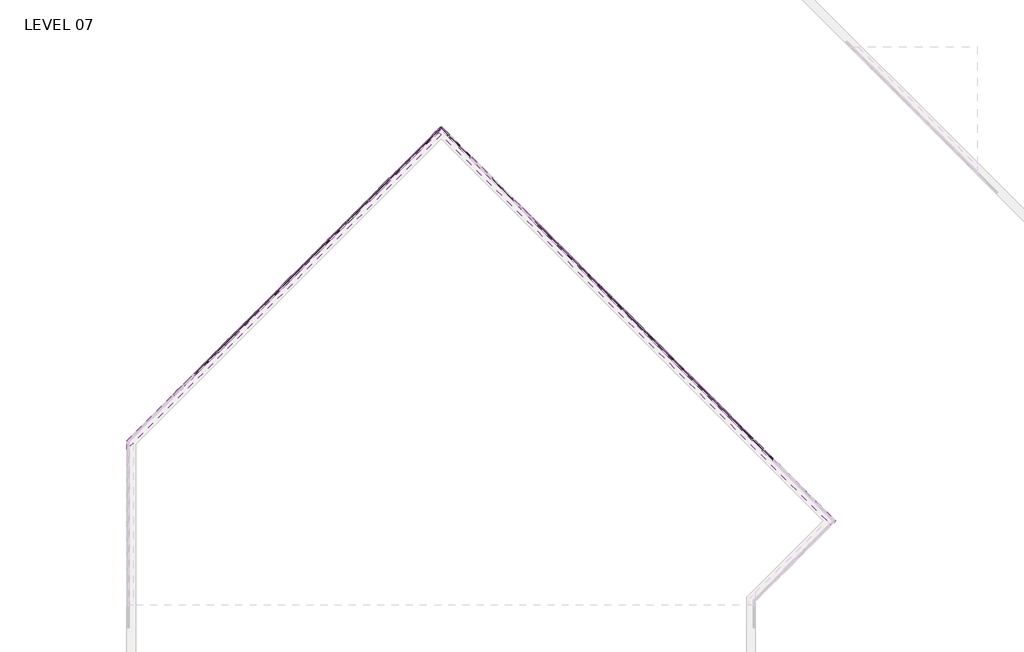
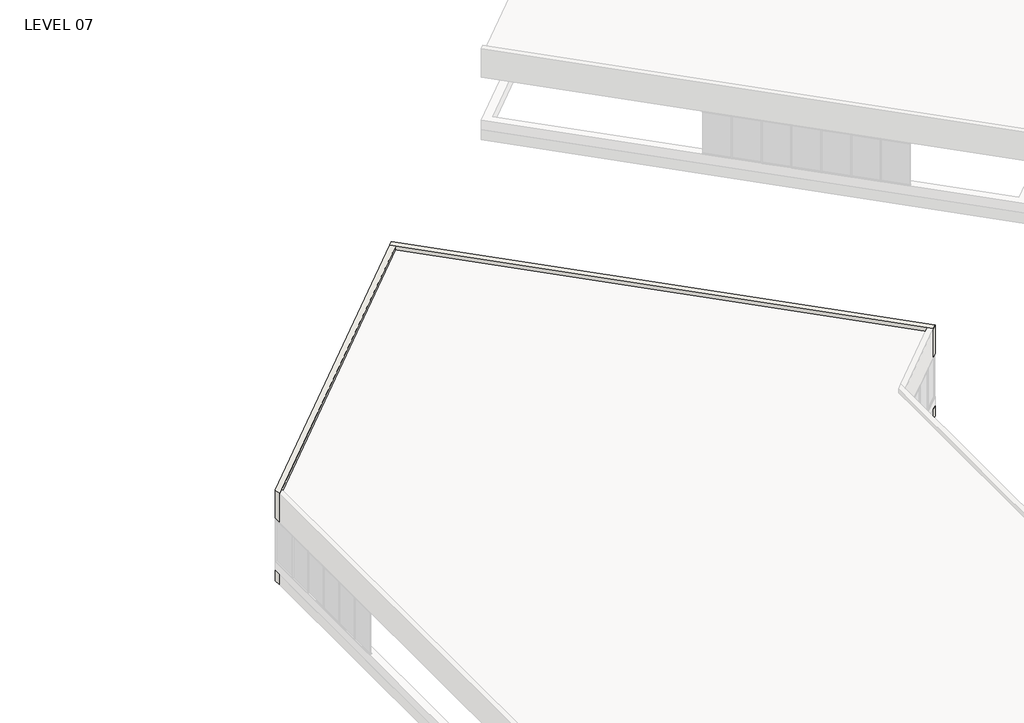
# One storey, part 6 of 18: 77 members, 25 plates, 4 walls.
"""IFC4 building model written with IfcOpenShell, lengths in millimetres."""

from ifc_helpers import new_model, si_unit, origin, place, context, project, spatial, faceted_brep, transform, mapped, element, save
from components import member_5247f267, member_e44af9ab, member_800970d4, member_25b26a38, member_ac5115e9, member_910c08c9, plate_67294edd, plate_6d527a83, plate_88df3e37, plate_c01932d8

model = new_model("IFC4")

# Units and contexts
model_context = context("Model", 3, world=origin())
ifc_project = project(units=[si_unit("LENGTHUNIT", "METRE", prefix="MILLI")], contexts=[model_context])

# Site, building, storey
site = spatial("IfcSite", under=ifc_project)
building = spatial("IfcBuilding", under=site)
storey = spatial("IfcBuildingStorey", under=building, Name="LEVEL 07", Elevation=23368.0)

# Members
placement = place(None, origin())
member_shape = member_5247f267(model_context)
element("IfcMember", 1, ObjectType="Rectangular Mullion : 2\" x 4.5\" rectangular", at=placement, inside=storey, context=model_context, shape_type="MappedRepresentation", body=[
    mapped(member_shape, transform((-29452.1097655, 80065.598675, 25958.8), x_axis=(0.0, 0.0, 1.0), y_axis=(0.7071067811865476, -0.7071067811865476, 0.0), z_axis=(0.7071067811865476, 0.7071067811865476, 0.0))),
])
element("IfcMember", 2, ObjectType="Rectangular Mullion : 2\" x 4.5\" rectangular", at=placement, inside=storey, context=model_context, shape_type="MappedRepresentation", body=[
    mapped(member_shape, transform((-28374.479031, 81143.2294096, 25958.8), x_axis=(0.0, 0.0, 1.0), y_axis=(0.7071067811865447, -0.7071067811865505, 0.0), z_axis=(0.7071067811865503, 0.7071067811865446, 0.0))),
])
element("IfcMember", 3, ObjectType="Rectangular Mullion : 2\" x 4.5\" rectangular", at=placement, inside=storey, context=model_context, shape_type="MappedRepresentation", body=[
    mapped(member_shape, transform((-26219.2175619, 83298.4908786, 25958.8), x_axis=(0.0, 0.0, 1.0), y_axis=(0.707106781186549, -0.7071067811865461, 0.0), z_axis=(0.7071067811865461, 0.707106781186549, 0.0))),
])
element("IfcMember", 4, ObjectType="Rectangular Mullion : 2\" x 4.5\" rectangular", at=placement, inside=storey, context=model_context, shape_type="MappedRepresentation", body=[
    mapped(member_shape, transform((-25141.5868274, 84376.1216131, 25958.8), x_axis=(0.0, 0.0, 1.0), y_axis=(0.7071067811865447, -0.7071067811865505, 0.0), z_axis=(0.7071067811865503, 0.7071067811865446, 0.0))),
])
element("IfcMember", 5, ObjectType="Rectangular Mullion : 2\" x 4.5\" rectangular", at=placement, inside=storey, context=model_context, shape_type="MappedRepresentation", body=[
    mapped(member_shape, transform((-24063.9560929, 85453.7523477, 25958.8), x_axis=(0.0, 0.0, 1.0), y_axis=(0.707106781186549, -0.7071067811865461, 0.0), z_axis=(0.7071067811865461, 0.707106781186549, 0.0))),
])
element("IfcMember", 6, ObjectType="Rectangular Mullion : 2\" x 4.5\" rectangular", at=placement, inside=storey, context=model_context, shape_type="MappedRepresentation", body=[
    mapped(member_shape, transform((-18675.8024202, 90841.9060203, 25958.8), x_axis=(0.0, 0.0, 1.0), y_axis=(0.707106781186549, -0.7071067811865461, 0.0), z_axis=(0.7071067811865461, 0.707106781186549, 0.0))),
])
element("IfcMember", 7, ObjectType="Rectangular Mullion : 2\" x 4.5\" rectangular", at=placement, inside=storey, context=model_context, shape_type="MappedRepresentation", body=[
    mapped(member_shape, transform((-27296.8482965, 82220.8601441, 25958.8), x_axis=(0.0, 0.0, 1.0), y_axis=(0.7071067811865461, -0.707106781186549, 0.0), z_axis=(0.707106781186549, 0.7071067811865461, 0.0))),
])
element("IfcMember", 8, ObjectType="Rectangular Mullion : 2\" x 4.5\" rectangular", at=placement, inside=storey, context=model_context, shape_type="MappedRepresentation", body=[
    mapped(member_shape, transform((-21908.6946238, 87609.0138167, 25958.8), x_axis=(0.0, 0.0, 1.0), y_axis=(0.707106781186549, -0.7071067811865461, 0.0), z_axis=(0.7071067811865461, 0.707106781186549, 0.0))),
])
element("IfcMember", 9, ObjectType="Rectangular Mullion : 2\" x 4.5\" rectangular", at=placement, inside=storey, context=model_context, shape_type="MappedRepresentation", body=[
    mapped(member_shape, transform((-22986.3253583, 86531.3830822, 25958.8), x_axis=(0.0, 0.0, 1.0), y_axis=(0.7071067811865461, -0.707106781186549, 0.0), z_axis=(0.707106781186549, 0.7071067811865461, 0.0))),
])
element("IfcMember", 10, ObjectType="Rectangular Mullion : 2\" x 4.5\" rectangular", at=placement, inside=storey, context=model_context, shape_type="MappedRepresentation", body=[
    mapped(member_shape, transform((-20831.0638893, 88686.6445513, 25958.8), x_axis=(0.0, 0.0, 1.0), y_axis=(0.7071067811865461, -0.707106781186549, 0.0), z_axis=(0.707106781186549, 0.7071067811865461, 0.0))),
])
element("IfcMember", 11, ObjectType="Rectangular Mullion : 2\" x 4.5\" rectangular", at=placement, inside=storey, context=model_context, shape_type="MappedRepresentation", body=[
    mapped(member_shape, transform((-19753.4331548, 89764.2752858, 25958.8), x_axis=(0.0, 0.0, 1.0), y_axis=(0.7071067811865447, -0.7071067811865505, 0.0), z_axis=(0.7071067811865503, 0.7071067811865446, 0.0))),
])
element("IfcMember", 12, ObjectType="Rectangular Mullion : 2\" x 4.5\" rectangular", at=placement, inside=storey, context=model_context, shape_type="MappedRepresentation", body=[
    mapped(member_shape, transform((-17598.1716857, 91919.5367548, 25958.8), x_axis=(0.0, 0.0, 1.0), y_axis=(0.7071067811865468, -0.7071067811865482, 0.0), z_axis=(0.7071067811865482, 0.7071067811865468, 0.0))),
])
element("IfcMember", 13, ObjectType="Rectangular Mullion : 2\" x 4.5\" rectangular", at=placement, inside=storey, context=model_context, shape_type="MappedRepresentation", body=[
    mapped(member_shape, transform((-14678.2286299, 89800.0176376, 25958.8), x_axis=(0.0, 0.0, 1.0), y_axis=(-0.7071067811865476, -0.7071067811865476, 0.0), z_axis=(0.7071067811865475, -0.7071067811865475, 0.0))),
])
element("IfcMember", 14, ObjectType="Rectangular Mullion : 2\" x 4.5\" rectangular", at=placement, inside=storey, context=model_context, shape_type="MappedRepresentation", body=[
    mapped(member_shape, transform((-11445.3364263, 86567.125434, 25958.8), x_axis=(0.0, 0.0, 1.0), y_axis=(-0.7071067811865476, -0.7071067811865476, 0.0), z_axis=(0.7071067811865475, -0.7071067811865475, 0.0))),
])
element("IfcMember", 15, ObjectType="Rectangular Mullion : 2\" x 4.5\" rectangular", at=placement, inside=storey, context=model_context, shape_type="MappedRepresentation", body=[
    mapped(member_shape, transform((-10367.7056918, 85489.4946995, 25958.8), x_axis=(0.0, 0.0, 1.0), y_axis=(-0.7071067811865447, -0.7071067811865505, 0.0), z_axis=(0.7071067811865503, -0.7071067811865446, 0.0))),
])
element("IfcMember", 16, ObjectType="Rectangular Mullion : 2\" x 4.5\" rectangular", at=placement, inside=storey, context=model_context, shape_type="MappedRepresentation", body=[
    mapped(member_shape, transform((-9290.0749572, 84411.863965, 25958.8), x_axis=(0.0, 0.0, 1.0), y_axis=(-0.7071067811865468, -0.7071067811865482, 0.0), z_axis=(0.7071067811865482, -0.7071067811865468, 0.0))),
])
element("IfcMember", 17, ObjectType="Rectangular Mullion : 2\" x 4.5\" rectangular", at=placement, inside=storey, context=model_context, shape_type="MappedRepresentation", body=[
    mapped(member_shape, transform((-8212.4442227, 83334.2332305, 25958.8), x_axis=(0.0, 0.0, 1.0), y_axis=(-0.7071067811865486, -0.7071067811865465, 0.0), z_axis=(0.7071067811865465, -0.7071067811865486, 0.0))),
])
element("IfcMember", 18, ObjectType="Rectangular Mullion : 2\" x 4.5\" rectangular", at=placement, inside=storey, context=model_context, shape_type="MappedRepresentation", body=[
    mapped(member_shape, transform((-4979.9093644, 80101.6983722, 25958.8), x_axis=(0.0, 0.0, 1.0), y_axis=(-0.7071067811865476, -0.7071067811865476, 0.0), z_axis=(0.7071067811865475, -0.7071067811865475, 0.0))),
])
element("IfcMember", 19, ObjectType="Rectangular Mullion : 2\" x 4.5\" rectangular", at=placement, inside=storey, context=model_context, shape_type="MappedRepresentation", body=[
    mapped(member_shape, transform((-3902.2786299, 79024.0676376, 25958.8), x_axis=(0.0, 0.0, 1.0), y_axis=(-0.7071067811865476, -0.7071067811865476, 0.0), z_axis=(0.7071067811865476, -0.7071067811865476, 0.0))),
])
element("IfcMember", 20, ObjectType="Rectangular Mullion : 2\" x 4.5\" rectangular", at=placement, inside=storey, context=model_context, shape_type="MappedRepresentation", body=[
    mapped(member_shape, transform((-12522.9671608, 87644.7561686, 25958.8), x_axis=(0.0, 0.0, 1.0), y_axis=(-0.7071067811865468, -0.7071067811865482, 0.0), z_axis=(0.7071067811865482, -0.7071067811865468, 0.0))),
])
element("IfcMember", 21, ObjectType="Rectangular Mullion : 2\" x 4.5\" rectangular", at=placement, inside=storey, context=model_context, shape_type="MappedRepresentation", body=[
    mapped(member_shape, transform((-2824.6478954, 77946.4369031, 25958.8), x_axis=(0.0, 0.0, 1.0), y_axis=(-0.7071067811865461, -0.707106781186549, 0.0), z_axis=(0.707106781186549, -0.7071067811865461, 0.0))),
])
element("IfcMember", 22, ObjectType="Rectangular Mullion : 2\" x 4.5\" rectangular", at=placement, inside=storey, context=model_context, shape_type="MappedRepresentation", body=[
    mapped(member_shape, transform((-1747.0171608, 76868.8061686, 25958.8), x_axis=(0.0, 0.0, 1.0), y_axis=(-0.7071067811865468, -0.7071067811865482, 0.0), z_axis=(0.7071067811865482, -0.7071067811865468, 0.0))),
])
element("IfcMember", 23, ObjectType="Rectangular Mullion : 2\" x 4.5\" rectangular", at=placement, inside=storey, context=model_context, shape_type="MappedRepresentation", body=[
    mapped(member_shape, transform((-29416.188741, 80101.5196995, 23368.0), x_axis=(0.0, 0.0, -1.0), y_axis=(0.7071067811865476, -0.7071067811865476, 0.0), z_axis=(-0.7071067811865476, -0.7071067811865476, 0.0))),
])
element("IfcMember", 24, ObjectType="Rectangular Mullion : 2\" x 4.5\" rectangular", at=placement, inside=storey, context=model_context, shape_type="MappedRepresentation", body=[
    mapped(member_shape, transform((-28338.5580065, 81179.150434, 23368.0), x_axis=(0.0, 0.0, -1.0), y_axis=(0.7071067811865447, -0.7071067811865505, 0.0), z_axis=(-0.7071067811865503, -0.7071067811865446, 0.0))),
])
element("IfcMember", 25, ObjectType="Rectangular Mullion : 2\" x 4.5\" rectangular", at=placement, inside=storey, context=model_context, shape_type="MappedRepresentation", body=[
    mapped(member_shape, transform((-26183.2965374, 83334.4119031, 23368.0), x_axis=(0.0, 0.0, -1.0), y_axis=(0.7071067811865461, -0.707106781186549, 0.0), z_axis=(-0.707106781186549, -0.7071067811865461, 0.0))),
])
element("IfcMember", 26, ObjectType="Rectangular Mullion : 2\" x 4.5\" rectangular", at=placement, inside=storey, context=model_context, shape_type="MappedRepresentation", body=[
    mapped(member_shape, transform((-25105.6658029, 84412.0426376, 23368.0), x_axis=(0.0, 0.0, -1.0), y_axis=(0.707106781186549, -0.7071067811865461, 0.0), z_axis=(-0.7071067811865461, -0.707106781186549, 0.0))),
])
element("IfcMember", 27, ObjectType="Rectangular Mullion : 2\" x 4.5\" rectangular", at=placement, inside=storey, context=model_context, shape_type="MappedRepresentation", body=[
    mapped(member_shape, transform((-24028.0350684, 85489.6733722, 23368.0), x_axis=(0.0, 0.0, -1.0), y_axis=(0.7071067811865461, -0.707106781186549, 0.0), z_axis=(-0.707106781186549, -0.7071067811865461, 0.0))),
])
element("IfcMember", 28, ObjectType="Rectangular Mullion : 2\" x 4.5\" rectangular", at=placement, inside=storey, context=model_context, shape_type="MappedRepresentation", body=[
    mapped(member_shape, transform((-18639.8813957, 90877.8270448, 23368.0), x_axis=(0.0, 0.0, -1.0), y_axis=(0.7071067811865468, -0.7071067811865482, 0.0), z_axis=(-0.7071067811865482, -0.7071067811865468, 0.0))),
])
element("IfcMember", 29, ObjectType="Rectangular Mullion : 2\" x 4.5\" rectangular", at=placement, inside=storey, context=model_context, shape_type="MappedRepresentation", body=[
    mapped(member_shape, transform((-27260.927272, 82256.7811686, 23368.0), x_axis=(0.0, 0.0, -1.0), y_axis=(0.7071067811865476, -0.7071067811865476, 0.0), z_axis=(-0.7071067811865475, -0.7071067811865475, 0.0))),
])
element("IfcMember", 30, ObjectType="Rectangular Mullion : 2\" x 4.5\" rectangular", at=placement, inside=storey, context=model_context, shape_type="MappedRepresentation", body=[
    mapped(member_shape, transform((-21872.7735993, 87644.9348412, 23368.0), x_axis=(0.0, 0.0, -1.0), y_axis=(0.7071067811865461, -0.707106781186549, 0.0), z_axis=(-0.707106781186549, -0.7071067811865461, 0.0))),
])
element("IfcMember", 31, ObjectType="Rectangular Mullion : 2\" x 4.5\" rectangular", at=placement, inside=storey, context=model_context, shape_type="MappedRepresentation", body=[
    mapped(member_shape, transform((-22950.4043339, 86567.3041067, 23368.0), x_axis=(0.0, 0.0, -1.0), y_axis=(0.707106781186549, -0.7071067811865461, 0.0), z_axis=(-0.7071067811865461, -0.707106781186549, 0.0))),
])
element("IfcMember", 32, ObjectType="Rectangular Mullion : 2\" x 4.5\" rectangular", at=placement, inside=storey, context=model_context, shape_type="MappedRepresentation", body=[
    mapped(member_shape, transform((-20795.1428648, 88722.5655757, 23368.0), x_axis=(0.0, 0.0, -1.0), y_axis=(0.7071067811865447, -0.7071067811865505, 0.0), z_axis=(-0.7071067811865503, -0.7071067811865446, 0.0))),
])
element("IfcMember", 33, ObjectType="Rectangular Mullion : 2\" x 4.5\" rectangular", at=placement, inside=storey, context=model_context, shape_type="MappedRepresentation", body=[
    mapped(member_shape, transform((-19717.5121303, 89800.1963103, 23368.0), x_axis=(0.0, 0.0, -1.0), y_axis=(0.707106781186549, -0.7071067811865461, 0.0), z_axis=(-0.7071067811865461, -0.707106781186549, 0.0))),
])
element("IfcMember", 34, ObjectType="Rectangular Mullion : 2\" x 4.5\" rectangular", at=placement, inside=storey, context=model_context, shape_type="MappedRepresentation", body=[
    mapped(member_shape, transform((-11409.4154018, 86531.2044096, 23368.0), x_axis=(0.0, 0.0, -1.0), y_axis=(-0.7071067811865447, -0.7071067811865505, 0.0), z_axis=(-0.7071067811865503, 0.7071067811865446, 0.0))),
])
element("IfcMember", 35, ObjectType="Rectangular Mullion : 2\" x 4.5\" rectangular", at=placement, inside=storey, context=model_context, shape_type="MappedRepresentation", body=[
    mapped(member_shape, transform((-10331.7846673, 85453.573675, 23368.0), x_axis=(0.0, 0.0, -1.0), y_axis=(-0.7071067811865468, -0.7071067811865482, 0.0), z_axis=(-0.7071067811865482, 0.7071067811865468, 0.0))),
])
element("IfcMember", 36, ObjectType="Rectangular Mullion : 2\" x 4.5\" rectangular", at=placement, inside=storey, context=model_context, shape_type="MappedRepresentation", body=[
    mapped(member_shape, transform((-9254.1539328, 84375.9429405, 23368.0), x_axis=(0.0, 0.0, -1.0), y_axis=(-0.7071067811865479, -0.7071067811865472, 0.0), z_axis=(-0.7071067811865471, 0.7071067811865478, 0.0))),
])
element("IfcMember", 37, ObjectType="Rectangular Mullion : 2\" x 4.5\" rectangular", at=placement, inside=storey, context=model_context, shape_type="MappedRepresentation", body=[
    mapped(member_shape, transform((-6021.6190745, 81143.4080822, 23368.0), x_axis=(0.0, 0.0, -1.0), y_axis=(-0.7071067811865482, -0.7071067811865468, 0.0), z_axis=(-0.7071067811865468, 0.7071067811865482, 0.0))),
])
element("IfcMember", 38, ObjectType="Rectangular Mullion : 2\" x 4.5\" rectangular", at=placement, inside=storey, context=model_context, shape_type="MappedRepresentation", body=[
    mapped(member_shape, transform((-4943.9883399, 80065.7773477, 23368.0), x_axis=(0.0, 0.0, -1.0), y_axis=(-0.7071067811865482, -0.7071067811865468, 0.0), z_axis=(-0.7071067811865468, 0.7071067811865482, 0.0))),
])
element("IfcMember", 39, ObjectType="Rectangular Mullion : 2\" x 4.5\" rectangular", at=placement, inside=storey, context=model_context, shape_type="MappedRepresentation", body=[
    mapped(member_shape, transform((-3866.3576054, 78988.1466131, 23368.0), x_axis=(0.0, 0.0, -1.0), y_axis=(-0.7071067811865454, -0.7071067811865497, 0.0), z_axis=(-0.7071067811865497, 0.7071067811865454, 0.0))),
])
element("IfcMember", 40, ObjectType="Rectangular Mullion : 2\" x 4.5\" rectangular", at=placement, inside=storey, context=model_context, shape_type="MappedRepresentation", body=[
    mapped(member_shape, transform((-12487.0461363, 87608.8351441, 23368.0), x_axis=(0.0, 0.0, -1.0), y_axis=(-0.7071067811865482, -0.7071067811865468, 0.0), z_axis=(-0.7071067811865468, 0.7071067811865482, 0.0))),
])
element("IfcMember", 41, ObjectType="Rectangular Mullion : 2\" x 4.5\" rectangular", at=placement, inside=storey, context=model_context, shape_type="MappedRepresentation", body=[
    mapped(member_shape, transform((-16797.5690745, 91919.3580822, 23368.0), x_axis=(0.0, 0.0, -1.0), y_axis=(-0.7071067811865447, -0.7071067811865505, 0.0), z_axis=(-0.7071067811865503, 0.7071067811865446, 0.0))),
])
element("IfcMember", 42, ObjectType="Rectangular Mullion : 2\" x 4.5\" rectangular", at=placement, inside=storey, context=model_context, shape_type="MappedRepresentation", body=[
    mapped(member_shape, transform((-2788.7268709, 77910.5158786, 23368.0), x_axis=(0.0, 0.0, -1.0), y_axis=(-0.7071067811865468, -0.7071067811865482, 0.0), z_axis=(-0.7071067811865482, 0.7071067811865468, 0.0))),
])
element("IfcMember", 43, ObjectType="Rectangular Mullion : 2\" x 4.5\" rectangular", at=placement, inside=storey, context=model_context, shape_type="MappedRepresentation", body=[
    mapped(member_shape, transform((-1711.0961363, 76832.8851441, 23368.0), x_axis=(0.0, 0.0, -1.0), y_axis=(-0.7071067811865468, -0.7071067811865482, 0.0), z_axis=(-0.7071067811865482, 0.7071067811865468, 0.0))),
])
member_2_shape = member_e44af9ab(model_context)
element("IfcMember", 44, ObjectType="Rectangular Mullion : 2\" x 4.5\" rectangular", at=placement, inside=storey, context=model_context, shape_type="MappedRepresentation", body=[
    mapped(member_2_shape, transform((-29434.1492533, 80083.5591873, 23368.0), x_axis=(0.7071067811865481, 0.7071067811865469, 0.0), y_axis=(0.7071067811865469, -0.7071067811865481, 0.0), z_axis=(0.0, 0.0, -1.0))),
])
element("IfcMember", 45, ObjectType="Rectangular Mullion : 2\" x 4.5\" rectangular", at=placement, inside=storey, context=model_context, shape_type="MappedRepresentation", body=[
    mapped(member_2_shape, transform((-28356.5185187, 81161.1899218, 23368.0), x_axis=(0.7071067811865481, 0.7071067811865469, 0.0), y_axis=(0.7071067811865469, -0.7071067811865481, 0.0), z_axis=(0.0, 0.0, -1.0))),
])
element("IfcMember", 46, ObjectType="Rectangular Mullion : 2\" x 4.5\" rectangular", at=placement, inside=storey, context=model_context, shape_type="MappedRepresentation", body=[
    mapped(member_2_shape, transform((-26201.2570497, 83316.4513909, 23368.0), x_axis=(0.7071067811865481, 0.7071067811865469, 0.0), y_axis=(0.7071067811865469, -0.7071067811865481, 0.0), z_axis=(0.0, 0.0, -1.0))),
])
element("IfcMember", 47, ObjectType="Rectangular Mullion : 2\" x 4.5\" rectangular", at=placement, inside=storey, context=model_context, shape_type="MappedRepresentation", body=[
    mapped(member_2_shape, transform((-25123.6263152, 84394.0821254, 23368.0), x_axis=(0.7071067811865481, 0.7071067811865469, 0.0), y_axis=(0.7071067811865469, -0.7071067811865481, 0.0), z_axis=(0.0, 0.0, -1.0))),
])
element("IfcMember", 48, ObjectType="Rectangular Mullion : 2\" x 4.5\" rectangular", at=placement, inside=storey, context=model_context, shape_type="MappedRepresentation", body=[
    mapped(member_2_shape, transform((-24045.9955806, 85471.7128599, 23368.0), x_axis=(0.7071067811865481, 0.7071067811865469, 0.0), y_axis=(0.7071067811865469, -0.7071067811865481, 0.0), z_axis=(0.0, 0.0, -1.0))),
])
element("IfcMember", 49, ObjectType="Rectangular Mullion : 2\" x 4.5\" rectangular", at=placement, inside=storey, context=model_context, shape_type="MappedRepresentation", body=[
    mapped(member_2_shape, transform((-18657.841908, 90859.8665326, 23368.0), x_axis=(0.7071067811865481, 0.7071067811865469, 0.0), y_axis=(0.7071067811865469, -0.7071067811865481, 0.0), z_axis=(0.0, 0.0, -1.0))),
])
element("IfcMember", 50, ObjectType="Rectangular Mullion : 2\" x 4.5\" rectangular", at=placement, inside=storey, context=model_context, shape_type="MappedRepresentation", body=[
    mapped(member_2_shape, transform((-27278.8877842, 82238.8206563, 23368.0), x_axis=(0.7071067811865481, 0.7071067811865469, 0.0), y_axis=(0.7071067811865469, -0.7071067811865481, 0.0), z_axis=(0.0, 0.0, -1.0))),
])
element("IfcMember", 51, ObjectType="Rectangular Mullion : 2\" x 4.5\" rectangular", at=placement, inside=storey, context=model_context, shape_type="MappedRepresentation", body=[
    mapped(member_2_shape, transform((-21890.7341116, 87626.974329, 23368.0), x_axis=(0.7071067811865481, 0.7071067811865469, 0.0), y_axis=(0.7071067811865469, -0.7071067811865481, 0.0), z_axis=(0.0, 0.0, -1.0))),
])
element("IfcMember", 52, ObjectType="Rectangular Mullion : 2\" x 4.5\" rectangular", at=placement, inside=storey, context=model_context, shape_type="MappedRepresentation", body=[
    mapped(member_2_shape, transform((-22968.3648461, 86549.3435944, 23368.0), x_axis=(0.7071067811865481, 0.7071067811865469, 0.0), y_axis=(0.7071067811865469, -0.7071067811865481, 0.0), z_axis=(0.0, 0.0, -1.0))),
])
element("IfcMember", 53, ObjectType="Rectangular Mullion : 2\" x 4.5\" rectangular", at=placement, inside=storey, context=model_context, shape_type="MappedRepresentation", body=[
    mapped(member_2_shape, transform((-20813.103377, 88704.6050635, 23368.0), x_axis=(0.7071067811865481, 0.7071067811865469, 0.0), y_axis=(0.7071067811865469, -0.7071067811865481, 0.0), z_axis=(0.0, 0.0, -1.0))),
])
element("IfcMember", 54, ObjectType="Rectangular Mullion : 2\" x 4.5\" rectangular", at=placement, inside=storey, context=model_context, shape_type="MappedRepresentation", body=[
    mapped(member_2_shape, transform((-19735.4726425, 89782.235798, 23368.0), x_axis=(0.7071067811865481, 0.7071067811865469, 0.0), y_axis=(0.7071067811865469, -0.7071067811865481, 0.0), z_axis=(0.0, 0.0, -1.0))),
])
element("IfcMember", 55, ObjectType="Rectangular Mullion : 2\" x 4.5\" rectangular", at=placement, inside=storey, context=model_context, shape_type="MappedRepresentation", body=[
    mapped(member_2_shape, transform((-17580.2111735, 91937.4972671, 23368.0), x_axis=(0.7071067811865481, 0.7071067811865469, 0.0), y_axis=(0.7071067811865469, -0.7071067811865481, 0.0), z_axis=(0.0, 0.0, -1.0))),
])
element("IfcMember", 56, ObjectType="Rectangular Mullion : 2\" x 4.5\" rectangular", at=placement, inside=storey, context=model_context, shape_type="MappedRepresentation", body=[
    mapped(member_2_shape, transform((-11427.3759141, 86549.1649218, 23368.0), x_axis=(0.707106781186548, -0.7071067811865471, 0.0), y_axis=(-0.7071067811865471, -0.707106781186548, 0.0), z_axis=(0.0, 0.0, -1.0))),
])
element("IfcMember", 57, ObjectType="Rectangular Mullion : 2\" x 4.5\" rectangular", at=placement, inside=storey, context=model_context, shape_type="MappedRepresentation", body=[
    mapped(member_2_shape, transform((-10349.7451795, 85471.5341873, 23368.0), x_axis=(0.707106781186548, -0.7071067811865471, 0.0), y_axis=(-0.7071067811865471, -0.707106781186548, 0.0), z_axis=(0.0, 0.0, -1.0))),
])
element("IfcMember", 58, ObjectType="Rectangular Mullion : 2\" x 4.5\" rectangular", at=placement, inside=storey, context=model_context, shape_type="MappedRepresentation", body=[
    mapped(member_2_shape, transform((-9272.114445, 84393.9034527, 23368.0), x_axis=(0.707106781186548, -0.7071067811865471, 0.0), y_axis=(-0.7071067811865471, -0.707106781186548, 0.0), z_axis=(0.0, 0.0, -1.0))),
])
element("IfcMember", 59, ObjectType="Rectangular Mullion : 2\" x 4.5\" rectangular", at=placement, inside=storey, context=model_context, shape_type="MappedRepresentation", body=[
    mapped(member_2_shape, transform((-8194.4837105, 83316.2727182, 23368.0), x_axis=(0.707106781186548, -0.7071067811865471, 0.0), y_axis=(-0.7071067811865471, -0.707106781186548, 0.0), z_axis=(0.0, 0.0, -1.0))),
])
element("IfcMember", 60, ObjectType="Rectangular Mullion : 2\" x 4.5\" rectangular", at=placement, inside=storey, context=model_context, shape_type="MappedRepresentation", body=[
    mapped(member_2_shape, transform((-6039.5795867, 81161.3685944, 23368.0), x_axis=(0.707106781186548, -0.7071067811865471, 0.0), y_axis=(-0.7071067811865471, -0.707106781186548, 0.0), z_axis=(0.0, 0.0, -1.0))),
])
element("IfcMember", 61, ObjectType="Rectangular Mullion : 2\" x 4.5\" rectangular", at=placement, inside=storey, context=model_context, shape_type="MappedRepresentation", body=[
    mapped(member_2_shape, transform((-4961.9488522, 80083.7378599, 23368.0), x_axis=(0.707106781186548, -0.7071067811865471, 0.0), y_axis=(-0.7071067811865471, -0.707106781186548, 0.0), z_axis=(0.0, 0.0, -1.0))),
])
element("IfcMember", 62, ObjectType="Rectangular Mullion : 2\" x 4.5\" rectangular", at=placement, inside=storey, context=model_context, shape_type="MappedRepresentation", body=[
    mapped(member_2_shape, transform((-3884.3181176, 79006.1071254, 23368.0), x_axis=(0.707106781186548, -0.7071067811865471, 0.0), y_axis=(-0.7071067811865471, -0.707106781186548, 0.0), z_axis=(0.0, 0.0, -1.0))),
])
element("IfcMember", 63, ObjectType="Rectangular Mullion : 2\" x 4.5\" rectangular", at=placement, inside=storey, context=model_context, shape_type="MappedRepresentation", body=[
    mapped(member_2_shape, transform((-12505.0066486, 87626.7956563, 23368.0), x_axis=(0.707106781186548, -0.7071067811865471, 0.0), y_axis=(-0.7071067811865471, -0.707106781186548, 0.0), z_axis=(0.0, 0.0, -1.0))),
])
element("IfcMember", 64, ObjectType="Rectangular Mullion : 2\" x 4.5\" rectangular", at=placement, inside=storey, context=model_context, shape_type="MappedRepresentation", body=[
    mapped(member_2_shape, transform((-16815.5295867, 91937.3185944, 23368.0), x_axis=(0.707106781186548, -0.7071067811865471, 0.0), y_axis=(-0.7071067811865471, -0.707106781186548, 0.0), z_axis=(0.0, 0.0, -1.0))),
])
element("IfcMember", 65, ObjectType="Rectangular Mullion : 2\" x 4.5\" rectangular", at=placement, inside=storey, context=model_context, shape_type="MappedRepresentation", body=[
    mapped(member_2_shape, transform((-7117.0316486, 82238.8206563, 23368.0), x_axis=(0.707106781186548, -0.7071067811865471, 0.0), y_axis=(-0.7071067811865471, -0.707106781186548, 0.0), z_axis=(0.0, 0.0, -1.0))),
])
element("IfcMember", 66, ObjectType="Rectangular Mullion : 2\" x 4.5\" rectangular", at=placement, inside=storey, context=model_context, shape_type="MappedRepresentation", body=[
    mapped(member_2_shape, transform((-2806.6873831, 77928.4763909, 23368.0), x_axis=(0.707106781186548, -0.7071067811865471, 0.0), y_axis=(-0.7071067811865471, -0.707106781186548, 0.0), z_axis=(0.0, 0.0, -1.0))),
])
element("IfcMember", 67, ObjectType="Rectangular Mullion : 2\" x 4.5\" rectangular", at=placement, inside=storey, context=model_context, shape_type="MappedRepresentation", body=[
    mapped(member_2_shape, transform((-1729.0566486, 76850.8456563, 23368.0), x_axis=(0.707106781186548, -0.7071067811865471, 0.0), y_axis=(-0.7071067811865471, -0.707106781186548, 0.0), z_axis=(0.0, 0.0, -1.0))),
])
member_3_shape = member_800970d4(model_context)
element("IfcMember", 68, ObjectType="Rectangular Mullion : 2\" x 4.5\" rectangular", at=placement, inside=storey, context=model_context, shape_type="MappedRepresentation", body=[
    mapped(member_3_shape, transform((-17197.9597164, 92319.7487241, 23368.0), x_axis=(0.7071067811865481, 0.7071067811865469, 0.0), y_axis=(0.7071067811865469, -0.7071067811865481, 0.0), z_axis=(0.0, 0.0, -1.0))),
])
element("IfcMember", 69, ObjectType="Rectangular Mullion : 2\" x 4.5\" rectangular", at=placement, inside=storey, context=model_context, shape_type="MappedRepresentation", body=[
    mapped(member_3_shape, transform((-17197.9597164, 92319.7487241, 25958.8), x_axis=(-0.707106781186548, 0.7071067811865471, 0.0), y_axis=(-0.7071067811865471, -0.707106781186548, 0.0), z_axis=(0.0, 0.0, 1.0))),
])
member_4_shape = member_25b26a38(model_context)
element("IfcMember", 70, ObjectType="Rectangular Mullion : 2\" x 4.5\" rectangular", at=placement, inside=storey, context=model_context, shape_type="MappedRepresentation", body=[
    mapped(member_4_shape, transform((-16833.4900989, 91955.2791067, 25958.8), x_axis=(0.0, 0.0, 1.0), y_axis=(-0.7071067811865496, -0.7071067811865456, 0.0), z_axis=(0.7071067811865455, -0.7071067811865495, 0.0))),
])
element("IfcMember", 71, ObjectType="Rectangular Mullion : 2\" x 4.5\" rectangular", at=placement, inside=storey, context=model_context, shape_type="MappedRepresentation", body=[
    mapped(member_4_shape, transform((-17162.0386919, 92283.8276997, 23368.0), x_axis=(0.0, 0.0, -1.0), y_axis=(-0.7071067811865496, -0.7071067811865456, 0.0), z_axis=(-0.7071067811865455, 0.7071067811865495, 0.0))),
])
member_5_shape = member_ac5115e9(model_context)
element("IfcMember", 72, ObjectType="Rectangular Mullion : 2\" x 4.5\" rectangular", at=placement, inside=storey, context=model_context, shape_type="MappedRepresentation", body=[
    mapped(member_5_shape, transform((-17233.8807409, 92283.8276997, 25958.8), x_axis=(0.0, 0.0, 1.0), y_axis=(0.7071067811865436, -0.7071067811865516, 0.0), z_axis=(0.7071067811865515, 0.7071067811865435, 0.0))),
])
element("IfcMember", 73, ObjectType="Rectangular Mullion : 2\" x 4.5\" rectangular", at=placement, inside=storey, context=model_context, shape_type="MappedRepresentation", body=[
    mapped(member_5_shape, transform((-17562.2506612, 91955.4577793, 23368.0), x_axis=(0.0, 0.0, -1.0), y_axis=(0.7071067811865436, -0.7071067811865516, 0.0), z_axis=(-0.7071067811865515, -0.7071067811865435, 0.0))),
])
member_6_shape = member_910c08c9(model_context)
element("IfcMember", 74, ObjectType="Rectangular Mullion : 2\" x 4.5\" rectangular", at=placement, inside=storey, context=model_context, shape_type="MappedRepresentation", body=[
    mapped(member_6_shape, transform((-6057.5400989, 81179.3291067, 25958.8), x_axis=(0.0, 0.0, 1.0), y_axis=(-0.7071067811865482, -0.7071067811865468, 0.0), z_axis=(0.7071067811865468, -0.7071067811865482, 0.0))),
])
element("IfcMember", 75, ObjectType="Rectangular Mullion : 2\" x 4.5\" rectangular", at=placement, inside=storey, context=model_context, shape_type="MappedRepresentation", body=[
    mapped(member_6_shape, transform((-7134.9921608, 82256.7811686, 25958.8), x_axis=(0.0, 0.0, 1.0), y_axis=(-0.7071067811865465, -0.7071067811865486, 0.0), z_axis=(0.7071067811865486, -0.7071067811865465, 0.0))),
])
element("IfcMember", 76, ObjectType="Rectangular Mullion : 2\" x 4.5\" rectangular", at=placement, inside=storey, context=model_context, shape_type="MappedRepresentation", body=[
    mapped(member_6_shape, transform((-8176.5231982, 83298.312206, 23368.0), x_axis=(0.0, 0.0, -1.0), y_axis=(-0.7071067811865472, -0.7071067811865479, 0.0), z_axis=(-0.7071067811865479, 0.7071067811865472, 0.0))),
])
element("IfcMember", 77, ObjectType="Rectangular Mullion : 2\" x 4.5\" rectangular", at=placement, inside=storey, context=model_context, shape_type="MappedRepresentation", body=[
    mapped(member_6_shape, transform((-7099.0711363, 82220.8601441, 23368.0), x_axis=(0.0, 0.0, -1.0), y_axis=(-0.7071067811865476, -0.7071067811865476, 0.0), z_axis=(-0.7071067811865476, 0.7071067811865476, 0.0))),
])

# Plates
plate_shape = plate_67294edd(model_context)
element("IfcPlate", 78, ObjectType="System Panel : 1/4\" Glass", at=placement, inside=storey, context=model_context, shape_type="MappedRepresentation", body=[
    mapped(plate_shape, transform((-28895.333886, 80622.3745545, 23418.8), x_axis=(0.7071067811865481, 0.7071067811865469, 0.0), y_axis=(-0.7071067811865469, 0.7071067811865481, 0.0), z_axis=(0.0, 0.0, 1.0))),
])
element("IfcPlate", 79, ObjectType="System Panel : 1/4\" Glass", at=placement, inside=storey, context=model_context, shape_type="MappedRepresentation", body=[
    mapped(plate_shape, transform((-27817.7031515, 81700.0052891, 23418.8), x_axis=(0.7071067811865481, 0.7071067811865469, 0.0), y_axis=(-0.7071067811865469, 0.7071067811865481, 0.0), z_axis=(0.0, 0.0, 1.0))),
])
element("IfcPlate", 80, ObjectType="System Panel : 1/4\" Glass", at=placement, inside=storey, context=model_context, shape_type="MappedRepresentation", body=[
    mapped(plate_shape, transform((-25662.4416824, 83855.2667581, 23418.8), x_axis=(0.7071067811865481, 0.7071067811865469, 0.0), y_axis=(-0.7071067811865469, 0.7071067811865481, 0.0), z_axis=(0.0, 0.0, 1.0))),
])
element("IfcPlate", 81, ObjectType="System Panel : 1/4\" Glass", at=placement, inside=storey, context=model_context, shape_type="MappedRepresentation", body=[
    mapped(plate_shape, transform((-24584.8109479, 84932.8974927, 23418.8), x_axis=(0.7071067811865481, 0.7071067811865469, 0.0), y_axis=(-0.7071067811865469, 0.7071067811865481, 0.0), z_axis=(0.0, 0.0, 1.0))),
])
element("IfcPlate", 82, ObjectType="System Panel : 1/4\" Glass", at=placement, inside=storey, context=model_context, shape_type="MappedRepresentation", body=[
    mapped(plate_shape, transform((-23507.1802134, 86010.5282272, 23418.8), x_axis=(0.7071067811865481, 0.7071067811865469, 0.0), y_axis=(-0.7071067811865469, 0.7071067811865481, 0.0), z_axis=(0.0, 0.0, 1.0))),
])
element("IfcPlate", 83, ObjectType="System Panel : 1/4\" Glass", at=placement, inside=storey, context=model_context, shape_type="MappedRepresentation", body=[
    mapped(plate_shape, transform((-18119.0265407, 91398.6818998, 23418.8), x_axis=(0.7071067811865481, 0.7071067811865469, 0.0), y_axis=(-0.7071067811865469, 0.7071067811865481, 0.0), z_axis=(0.0, 0.0, 1.0))),
])
element("IfcPlate", 84, ObjectType="System Panel : 1/4\" Glass", at=placement, inside=storey, context=model_context, shape_type="MappedRepresentation", body=[
    mapped(plate_shape, transform((-26740.072417, 82777.6360236, 23418.8), x_axis=(0.7071067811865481, 0.7071067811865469, 0.0), y_axis=(-0.7071067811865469, 0.7071067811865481, 0.0), z_axis=(0.0, 0.0, 1.0))),
])
element("IfcPlate", 85, ObjectType="System Panel : 1/4\" Glass", at=placement, inside=storey, context=model_context, shape_type="MappedRepresentation", body=[
    mapped(plate_shape, transform((-21351.9187443, 88165.7896962, 23418.8), x_axis=(0.7071067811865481, 0.7071067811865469, 0.0), y_axis=(-0.7071067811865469, 0.7071067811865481, 0.0), z_axis=(0.0, 0.0, 1.0))),
])
element("IfcPlate", 86, ObjectType="System Panel : 1/4\" Glass", at=placement, inside=storey, context=model_context, shape_type="MappedRepresentation", body=[
    mapped(plate_shape, transform((-22429.5494788, 87088.1589617, 23418.8), x_axis=(0.7071067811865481, 0.7071067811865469, 0.0), y_axis=(-0.7071067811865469, 0.7071067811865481, 0.0), z_axis=(0.0, 0.0, 1.0))),
])
element("IfcPlate", 87, ObjectType="System Panel : 1/4\" Glass", at=placement, inside=storey, context=model_context, shape_type="MappedRepresentation", body=[
    mapped(plate_shape, transform((-20274.2880098, 89243.4204308, 23418.8), x_axis=(0.7071067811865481, 0.7071067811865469, 0.0), y_axis=(-0.7071067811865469, 0.7071067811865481, 0.0), z_axis=(0.0, 0.0, 1.0))),
])
element("IfcPlate", 88, ObjectType="System Panel : 1/4\" Glass", at=placement, inside=storey, context=model_context, shape_type="MappedRepresentation", body=[
    mapped(plate_shape, transform((-19196.6572753, 90321.0511653, 23418.8), x_axis=(0.7071067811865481, 0.7071067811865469, 0.0), y_axis=(-0.7071067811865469, 0.7071067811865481, 0.0), z_axis=(0.0, 0.0, 1.0))),
])
element("IfcPlate", 89, ObjectType="System Panel : 1/4\" Glass", at=placement, inside=storey, context=model_context, shape_type="MappedRepresentation", body=[
    mapped(plate_shape, transform((-14121.4527504, 89243.2417581, 23418.8), x_axis=(0.707106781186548, -0.7071067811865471, 0.0), y_axis=(0.7071067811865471, 0.707106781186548, 0.0), z_axis=(0.0, 0.0, 1.0))),
])
element("IfcPlate", 90, ObjectType="System Panel : 1/4\" Glass", at=placement, inside=storey, context=model_context, shape_type="MappedRepresentation", body=[
    mapped(plate_shape, transform((-10888.5605468, 86010.3495545, 23418.8), x_axis=(0.707106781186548, -0.7071067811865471, 0.0), y_axis=(0.7071067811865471, 0.707106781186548, 0.0), z_axis=(0.0, 0.0, 1.0))),
])
element("IfcPlate", 91, ObjectType="System Panel : 1/4\" Glass", at=placement, inside=storey, context=model_context, shape_type="MappedRepresentation", body=[
    mapped(plate_shape, transform((-9810.9298123, 84932.71882, 23418.8), x_axis=(0.707106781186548, -0.7071067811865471, 0.0), y_axis=(0.7071067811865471, 0.707106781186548, 0.0), z_axis=(0.0, 0.0, 1.0))),
])
element("IfcPlate", 92, ObjectType="System Panel : 1/4\" Glass", at=placement, inside=storey, context=model_context, shape_type="MappedRepresentation", body=[
    mapped(plate_shape, transform((-8733.2990777, 83855.0880855, 23418.8), x_axis=(0.707106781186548, -0.7071067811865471, 0.0), y_axis=(0.7071067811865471, 0.707106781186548, 0.0), z_axis=(0.0, 0.0, 1.0))),
])
element("IfcPlate", 93, ObjectType="System Panel : 1/4\" Glass", at=placement, inside=storey, context=model_context, shape_type="MappedRepresentation", body=[
    mapped(plate_shape, transform((-5500.7642194, 80622.5532272, 23418.8), x_axis=(0.707106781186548, -0.7071067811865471, 0.0), y_axis=(0.7071067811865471, 0.707106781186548, 0.0), z_axis=(0.0, 0.0, 1.0))),
])
element("IfcPlate", 94, ObjectType="System Panel : 1/4\" Glass", at=placement, inside=storey, context=model_context, shape_type="MappedRepresentation", body=[
    mapped(plate_shape, transform((-3345.5027504, 78467.2917581, 23418.8), x_axis=(0.707106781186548, -0.7071067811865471, 0.0), y_axis=(0.7071067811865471, 0.707106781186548, 0.0), z_axis=(0.0, 0.0, 1.0))),
])
element("IfcPlate", 95, ObjectType="System Panel : 1/4\" Glass", at=placement, inside=storey, context=model_context, shape_type="MappedRepresentation", body=[
    mapped(plate_shape, transform((-11966.1912813, 87087.9802891, 23418.8), x_axis=(0.707106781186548, -0.7071067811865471, 0.0), y_axis=(0.7071067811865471, 0.707106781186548, 0.0), z_axis=(0.0, 0.0, 1.0))),
])
element("IfcPlate", 96, ObjectType="System Panel : 1/4\" Glass", at=placement, inside=storey, context=model_context, shape_type="MappedRepresentation", body=[
    mapped(plate_shape, transform((-16276.7142194, 91398.5032272, 23418.8), x_axis=(0.707106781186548, -0.7071067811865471, 0.0), y_axis=(0.7071067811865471, 0.707106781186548, 0.0), z_axis=(0.0, 0.0, 1.0))),
])
element("IfcPlate", 97, ObjectType="System Panel : 1/4\" Glass", at=placement, inside=storey, context=model_context, shape_type="MappedRepresentation", body=[
    mapped(plate_shape, transform((-2267.8720159, 77389.6610236, 23418.8), x_axis=(0.707106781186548, -0.7071067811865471, 0.0), y_axis=(0.7071067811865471, 0.707106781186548, 0.0), z_axis=(0.0, 0.0, 1.0))),
])
element("IfcPlate", 98, ObjectType="System Panel : 1/4\" Glass", at=placement, inside=storey, context=model_context, shape_type="MappedRepresentation", body=[
    mapped(plate_shape, transform((-1190.2412813, 76312.0302891, 23418.8), x_axis=(0.707106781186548, -0.7071067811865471, 0.0), y_axis=(0.7071067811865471, 0.707106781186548, 0.0), z_axis=(0.0, 0.0, 1.0))),
])
plate_2_shape = plate_6d527a83(model_context)
element("IfcPlate", 99, ObjectType="System Panel : 1/4\" Glass", at=placement, inside=storey, context=model_context, shape_type="MappedRepresentation", body=[
    mapped(plate_2_shape, transform((-16997.7643954, 92119.5534032, 23418.8), x_axis=(0.707106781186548, -0.7071067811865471, 0.0), y_axis=(0.7071067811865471, 0.707106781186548, 0.0), z_axis=(0.0, 0.0, 1.0))),
])
plate_3_shape = plate_88df3e37(model_context)
element("IfcPlate", 100, ObjectType="System Panel : 1/4\" Glass", at=placement, inside=storey, context=model_context, shape_type="MappedRepresentation", body=[
    mapped(plate_3_shape, transform((-7655.7576795, 82777.5466873, 23418.8), x_axis=(0.707106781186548, -0.7071067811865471, 0.0), y_axis=(0.7071067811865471, 0.707106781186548, 0.0), z_axis=(0.0, 0.0, 1.0))),
])
element("IfcPlate", 101, ObjectType="System Panel : 1/4\" Glass", at=placement, inside=storey, context=model_context, shape_type="MappedRepresentation", body=[
    mapped(plate_3_shape, transform((-6578.3056176, 81700.0946254, 23418.8), x_axis=(0.707106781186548, -0.7071067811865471, 0.0), y_axis=(0.7071067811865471, 0.707106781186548, 0.0), z_axis=(0.0, 0.0, 1.0))),
])
plate_4_shape = plate_c01932d8(model_context)
element("IfcPlate", 102, ObjectType="System Panel : 1/4\" Glass", at=placement, inside=storey, context=model_context, shape_type="MappedRepresentation", body=[
    mapped(plate_4_shape, transform((-17398.0657011, 92119.6427395, 23418.8), x_axis=(0.7071067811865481, 0.7071067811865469, 0.0), y_axis=(-0.7071067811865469, 0.7071067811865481, 0.0), z_axis=(0.0, 0.0, 1.0))),
])

# Walls
element("IfcWall", 103, ObjectType="01-CONCRETE-12", at=placement, inside=storey, context=model_context, shape_type="Brep", body=[
    faceted_brep([(2444.6437243, 72757.9675885, 22186.9), (-17197.9597164, 92400.5710292, 22186.9), (-17197.9597164, 92400.5710292, 22809.2), (2444.6437243, 72757.9675885, 22809.2), (2229.1175774, 72542.4414416, 22186.9), (2229.1175774, 72542.4414416, 22809.2), (2013.5914305, 72757.9675885, 22809.2), (-17197.9597164, 91969.5187354, 22809.2), (-17413.4858633, 92185.0448823, 22809.2), (-17413.4858633, 92185.0448823, 22186.9), (-17197.9597164, 91969.5187354, 22186.9), (2013.5914305, 72757.9675885, 22186.9)], [[[0, 1, 2, 3]], [[4, 5, 6, 7, 8, 9, 10, 11]], [[1, 0, 4, 11, 10, 9]], [[3, 2, 8, 7, 6, 5]], [[0, 3, 5, 4]], [[2, 1, 9, 8]]]),
])
element("IfcWall", 104, ObjectType="01-CONCRETE-12", at=placement, inside=storey, context=model_context, shape_type="Brep", body=[
    faceted_brep([(-17413.4858633, 92185.0448823, 22186.9), (-32841.1847164, 76757.3460292, 22186.9), (-32841.1847164, 76757.3460292, 22809.2), (-17413.4858633, 92185.0448823, 22809.2), (-17197.9597164, 91969.5187354, 22186.9), (-17197.9597164, 91969.5187354, 22809.2), (-32536.3847164, 76631.0937354, 22809.2), (-32841.1847164, 76326.2937354, 22809.2), (-32841.1847164, 76326.2937354, 22186.9), (-32536.3847164, 76631.0937354, 22186.9)], [[[0, 1, 2, 3]], [[4, 5, 6, 7, 8, 9]], [[1, 0, 4, 9, 8]], [[3, 2, 7, 6, 5]], [[2, 1, 8, 7]], [[0, 3, 5, 4]]]),
])
element("IfcWall", 105, ObjectType="01-CONCRETE-12", at=placement, inside=storey, context=model_context, shape_type="Brep", body=[
    faceted_brep([(2444.6437243, 72757.9675885, 25958.8), (-17197.9597164, 92400.5710292, 25958.8), (-17197.9597164, 92400.5710292, 27673.3), (2444.6437243, 72757.9675885, 27673.3), (2229.1175774, 72542.4414416, 25958.8), (2229.1175774, 72542.4414416, 27673.3), (2013.5914305, 72757.9675885, 27673.3), (-17197.9597164, 91969.5187354, 27673.3), (-17413.4858633, 92185.0448823, 27673.3), (-17413.4858633, 92185.0448823, 25958.8), (-17197.9597164, 91969.5187354, 25958.8), (2013.5914305, 72757.9675885, 25958.8)], [[[0, 1, 2, 3]], [[4, 5, 6, 7, 8, 9, 10, 11]], [[1, 0, 4, 11, 10, 9]], [[3, 2, 8, 7, 6, 5]], [[0, 3, 5, 4]], [[2, 1, 9, 8]]]),
])
element("IfcWall", 106, ObjectType="01-CONCRETE-12", at=placement, inside=storey, context=model_context, shape_type="Brep", body=[
    faceted_brep([(-17413.4858633, 92185.0448823, 25958.8), (-32841.1847164, 76757.3460292, 25958.8), (-32841.1847164, 76757.3460292, 27673.3), (-17413.4858633, 92185.0448823, 27673.3), (-17197.9597164, 91969.5187354, 25958.8), (-17197.9597164, 91969.5187354, 27673.3), (-32536.3847164, 76631.0937354, 27673.3), (-32841.1847164, 76326.2937354, 27673.3), (-32841.1847164, 76326.2937354, 25958.8), (-32536.3847164, 76631.0937354, 25958.8)], [[[0, 1, 2, 3]], [[4, 5, 6, 7, 8, 9]], [[1, 0, 4, 9, 8]], [[3, 2, 7, 6, 5]], [[0, 3, 5, 4]], [[2, 1, 8, 7]]]),
])

save(model, "model.ifc")
